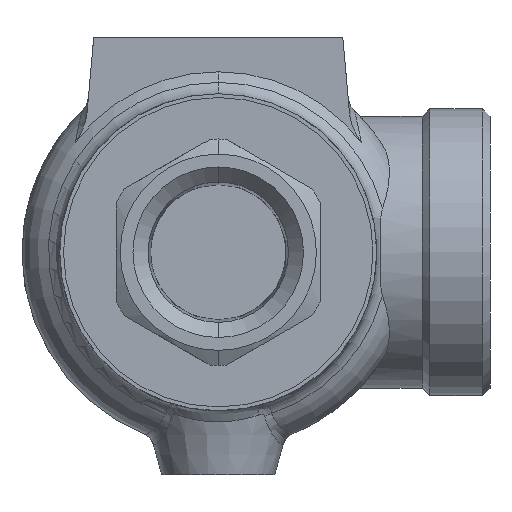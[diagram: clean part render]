
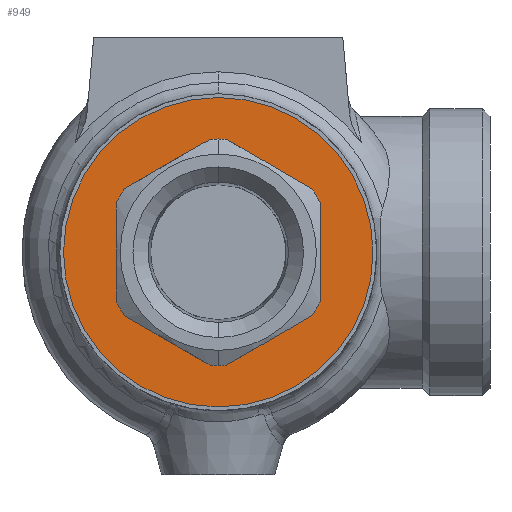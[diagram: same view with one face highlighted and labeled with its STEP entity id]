
A CAD part, front view. The second image highlights one B-rep face of the part: STEP entity #949.
In plain terms, the highlighted planar face has unit normal (0, -1, 0).
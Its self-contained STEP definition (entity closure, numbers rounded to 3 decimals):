
#52 = DIRECTION ( 'NONE',  ( 0., 0., 1. ) ) ;
#60 = DIRECTION ( 'NONE',  ( 0., 0., -1. ) ) ;
#62 = VERTEX_POINT ( 'NONE', #2121 ) ;
#88 = CARTESIAN_POINT ( 'NONE',  ( 0., -27., 0. ) ) ;
#91 = DIRECTION ( 'NONE',  ( 0., 0., -1. ) ) ;
#95 = ORIENTED_EDGE ( 'NONE', *, *, #3490, .F. ) ;
#109 = DIRECTION ( 'NONE',  ( 0., 1., 0. ) ) ;
#119 = DIRECTION ( 'NONE',  ( 0.866, 0., -0.5 ) ) ;
#142 = LINE ( 'NONE', #1221, #511 ) ;
#176 = VERTEX_POINT ( 'NONE', #2520 ) ;
#178 = CARTESIAN_POINT ( 'NONE',  ( -12.412, -27., 8.422 ) ) ;
#192 = EDGE_CURVE ( 'NONE', #1759, #1880, #1453, .T. ) ;
#228 = LINE ( 'NONE', #3576, #401 ) ;
#230 = DIRECTION ( 'NONE',  ( 0., -1., 0. ) ) ;
#243 = ORIENTED_EDGE ( 'NONE', *, *, #1543, .F. ) ;
#265 = CARTESIAN_POINT ( 'NONE',  ( 13.5, -27., 6.538 ) ) ;
#296 = ORIENTED_EDGE ( 'NONE', *, *, #743, .F. ) ;
#301 = EDGE_LOOP ( 'NONE', ( #3421, #243 ) ) ;
#314 = DIRECTION ( 'NONE',  ( 0., -1., 0. ) ) ;
#366 = DIRECTION ( 'NONE',  ( 0., 0., -1. ) ) ;
#401 = VECTOR ( 'NONE', #2446, 1000. ) ;
#427 = LINE ( 'NONE', #1270, #1401 ) ;
#452 = AXIS2_PLACEMENT_3D ( 'NONE', #1458, #1768, #52 ) ;
#461 = CARTESIAN_POINT ( 'NONE',  ( 0., -27., 0. ) ) ;
#463 = ORIENTED_EDGE ( 'NONE', *, *, #1375, .F. ) ;
#511 = VECTOR ( 'NONE', #119, 1000. ) ;
#515 = EDGE_CURVE ( 'NONE', #62, #2072, #2264, .T. ) ;
#569 = AXIS2_PLACEMENT_3D ( 'NONE', #2959, #1340, #1051 ) ;
#574 = AXIS2_PLACEMENT_3D ( 'NONE', #461, #754, #1019 ) ;
#596 = EDGE_LOOP ( 'NONE', ( #613, #1394, #1479, #95, #1723, #1468, #1190, #1813, #3088, #1889, #3548, #296, #463 ) ) ;
#613 = ORIENTED_EDGE ( 'NONE', *, *, #192, .F. ) ;
#650 = DIRECTION ( 'NONE',  ( -0.866, 0., -0.5 ) ) ;
#657 = DIRECTION ( 'NONE',  ( 0., 0., 1. ) ) ;
#743 = EDGE_CURVE ( 'NONE', #845, #62, #1496, .T. ) ;
#754 = DIRECTION ( 'NONE',  ( 0., -1., 0. ) ) ;
#787 = FACE_OUTER_BOUND ( 'NONE', #301, .T. ) ;
#801 = CARTESIAN_POINT ( 'NONE',  ( -13.5, -27., 0. ) ) ;
#822 = DIRECTION ( 'NONE',  ( 0., 0., -1. ) ) ;
#845 = VERTEX_POINT ( 'NONE', #178 ) ;
#849 = DIRECTION ( 'NONE',  ( 0., 0., -1. ) ) ;
#909 = AXIS2_PLACEMENT_3D ( 'NONE', #943, #230, #2064 ) ;
#943 = CARTESIAN_POINT ( 'NONE',  ( -20.5, -27., 0. ) ) ;
#949 = ADVANCED_FACE ( 'NONE', ( #2125, #787 ), #3454, .T. ) ;
#1019 = DIRECTION ( 'NONE',  ( 0., 0., -1. ) ) ;
#1027 = EDGE_CURVE ( 'NONE', #3318, #176, #2274, .T. ) ;
#1051 = DIRECTION ( 'NONE',  ( 0., 0., -1. ) ) ;
#1063 = EDGE_CURVE ( 'NONE', #2720, #1759, #228, .T. ) ;
#1094 = CIRCLE ( 'NONE', #452, 20.5 ) ;
#1118 = DIRECTION ( 'NONE',  ( 0., 0., 1. ) ) ;
#1165 = EDGE_CURVE ( 'NONE', #2378, #2720, #1668, .T. ) ;
#1190 = ORIENTED_EDGE ( 'NONE', *, *, #3127, .F. ) ;
#1208 = DIRECTION ( 'NONE',  ( 0., -1., 0. ) ) ;
#1212 = CARTESIAN_POINT ( 'NONE',  ( 0., -27., 0. ) ) ;
#1221 = CARTESIAN_POINT ( 'NONE',  ( -22.125, -27., -2.815 ) ) ;
#1270 = CARTESIAN_POINT ( 'NONE',  ( -8.625, -27., -20.568 ) ) ;
#1340 = DIRECTION ( 'NONE',  ( 0., -1., 0. ) ) ;
#1375 = EDGE_CURVE ( 'NONE', #1880, #845, #3440, .T. ) ;
#1394 = ORIENTED_EDGE ( 'NONE', *, *, #1063, .F. ) ;
#1401 = VECTOR ( 'NONE', #1602, 1000. ) ;
#1451 = AXIS2_PLACEMENT_3D ( 'NONE', #88, #1767, #366 ) ;
#1453 = CIRCLE ( 'NONE', #3513, 15. ) ;
#1458 = CARTESIAN_POINT ( 'NONE',  ( 0., -27., 0. ) ) ;
#1468 = ORIENTED_EDGE ( 'NONE', *, *, #2199, .F. ) ;
#1479 = ORIENTED_EDGE ( 'NONE', *, *, #1165, .F. ) ;
#1496 = CIRCLE ( 'NONE', #3425, 15. ) ;
#1543 = EDGE_CURVE ( 'NONE', #1836, #2183, #1094, .T. ) ;
#1602 = DIRECTION ( 'NONE',  ( 0.866, 0., 0.5 ) ) ;
#1652 = CARTESIAN_POINT ( 'NONE',  ( -1.088, -27., 14.961 ) ) ;
#1653 = CARTESIAN_POINT ( 'NONE',  ( 0., -27., 0. ) ) ;
#1668 = CIRCLE ( 'NONE', #2444, 15. ) ;
#1682 = LINE ( 'NONE', #2801, #2928 ) ;
#1723 = ORIENTED_EDGE ( 'NONE', *, *, #2299, .F. ) ;
#1734 = VECTOR ( 'NONE', #650, 1000. ) ;
#1748 = VERTEX_POINT ( 'NONE', #3244 ) ;
#1759 = VERTEX_POINT ( 'NONE', #3257 ) ;
#1767 = DIRECTION ( 'NONE',  ( 0., -1., 0. ) ) ;
#1768 = DIRECTION ( 'NONE',  ( 0., 1., 0. ) ) ;
#1813 = ORIENTED_EDGE ( 'NONE', *, *, #1027, .F. ) ;
#1836 = VERTEX_POINT ( 'NONE', #3321 ) ;
#1839 = VECTOR ( 'NONE', #3078, 1000. ) ;
#1880 = VERTEX_POINT ( 'NONE', #1652 ) ;
#1889 = ORIENTED_EDGE ( 'NONE', *, *, #2835, .F. ) ;
#2033 = VERTEX_POINT ( 'NONE', #3376 ) ;
#2063 = EDGE_CURVE ( 'NONE', #2183, #1836, #2979, .T. ) ;
#2064 = DIRECTION ( 'NONE',  ( 0., 0., -1. ) ) ;
#2072 = VERTEX_POINT ( 'NONE', #3451 ) ;
#2121 = CARTESIAN_POINT ( 'NONE',  ( -13.5, -27., 6.538 ) ) ;
#2125 = FACE_BOUND ( 'NONE', #596, .T. ) ;
#2183 = VERTEX_POINT ( 'NONE', #3430 ) ;
#2199 = EDGE_CURVE ( 'NONE', #1748, #2483, #427, .T. ) ;
#2215 = CARTESIAN_POINT ( 'NONE',  ( 0., -27., 0. ) ) ;
#2264 = LINE ( 'NONE', #801, #1839 ) ;
#2274 = CIRCLE ( 'NONE', #569, 15. ) ;
#2299 = EDGE_CURVE ( 'NONE', #2483, #2033, #3452, .T. ) ;
#2336 = CIRCLE ( 'NONE', #1451, 15. ) ;
#2344 = CARTESIAN_POINT ( 'NONE',  ( 0., -27., 0. ) ) ;
#2378 = VERTEX_POINT ( 'NONE', #265 ) ;
#2444 = AXIS2_PLACEMENT_3D ( 'NONE', #2215, #314, #822 ) ;
#2446 = DIRECTION ( 'NONE',  ( -0.866, 0., 0.5 ) ) ;
#2483 = VERTEX_POINT ( 'NONE', #3460 ) ;
#2520 = CARTESIAN_POINT ( 'NONE',  ( 0., -27., -15. ) ) ;
#2594 = EDGE_CURVE ( 'NONE', #3081, #3318, #142, .T. ) ;
#2611 = DIRECTION ( 'NONE',  ( 0., -1., 0. ) ) ;
#2639 = CARTESIAN_POINT ( 'NONE',  ( -22.125, -27., 2.815 ) ) ;
#2720 = VERTEX_POINT ( 'NONE', #3294 ) ;
#2801 = CARTESIAN_POINT ( 'NONE',  ( 13.5, -27., 0. ) ) ;
#2835 = EDGE_CURVE ( 'NONE', #2072, #3081, #2336, .T. ) ;
#2928 = VECTOR ( 'NONE', #1118, 1000. ) ;
#2959 = CARTESIAN_POINT ( 'NONE',  ( 0., -27., 0. ) ) ;
#2979 = CIRCLE ( 'NONE', #3332, 20.5 ) ;
#3024 = CIRCLE ( 'NONE', #3492, 15. ) ;
#3078 = DIRECTION ( 'NONE',  ( 0., 0., -1. ) ) ;
#3081 = VERTEX_POINT ( 'NONE', #3176 ) ;
#3088 = ORIENTED_EDGE ( 'NONE', *, *, #2594, .F. ) ;
#3100 = CARTESIAN_POINT ( 'NONE',  ( -1.088, -27., -14.961 ) ) ;
#3127 = EDGE_CURVE ( 'NONE', #176, #1748, #3024, .T. ) ;
#3176 = CARTESIAN_POINT ( 'NONE',  ( -12.412, -27., -8.422 ) ) ;
#3244 = CARTESIAN_POINT ( 'NONE',  ( 1.088, -27., -14.961 ) ) ;
#3257 = CARTESIAN_POINT ( 'NONE',  ( 1.088, -27., 14.961 ) ) ;
#3294 = CARTESIAN_POINT ( 'NONE',  ( 12.412, -27., 8.422 ) ) ;
#3318 = VERTEX_POINT ( 'NONE', #3100 ) ;
#3321 = CARTESIAN_POINT ( 'NONE',  ( 0., -27., -20.5 ) ) ;
#3324 = CARTESIAN_POINT ( 'NONE',  ( 0., -27., 0. ) ) ;
#3332 = AXIS2_PLACEMENT_3D ( 'NONE', #1212, #109, #657 ) ;
#3363 = DIRECTION ( 'NONE',  ( 0., -1., 0. ) ) ;
#3376 = CARTESIAN_POINT ( 'NONE',  ( 13.5, -27., -6.538 ) ) ;
#3421 = ORIENTED_EDGE ( 'NONE', *, *, #2063, .F. ) ;
#3425 = AXIS2_PLACEMENT_3D ( 'NONE', #2344, #2611, #91 ) ;
#3430 = CARTESIAN_POINT ( 'NONE',  ( 0., -27., 20.5 ) ) ;
#3440 = LINE ( 'NONE', #2639, #1734 ) ;
#3451 = CARTESIAN_POINT ( 'NONE',  ( -13.5, -27., -6.538 ) ) ;
#3452 = CIRCLE ( 'NONE', #574, 15. ) ;
#3454 = PLANE ( 'NONE',  #909 ) ;
#3460 = CARTESIAN_POINT ( 'NONE',  ( 12.412, -27., -8.422 ) ) ;
#3490 = EDGE_CURVE ( 'NONE', #2033, #2378, #1682, .T. ) ;
#3492 = AXIS2_PLACEMENT_3D ( 'NONE', #1653, #1208, #60 ) ;
#3513 = AXIS2_PLACEMENT_3D ( 'NONE', #3324, #3363, #849 ) ;
#3548 = ORIENTED_EDGE ( 'NONE', *, *, #515, .F. ) ;
#3576 = CARTESIAN_POINT ( 'NONE',  ( -8.625, -27., 20.568 ) ) ;
